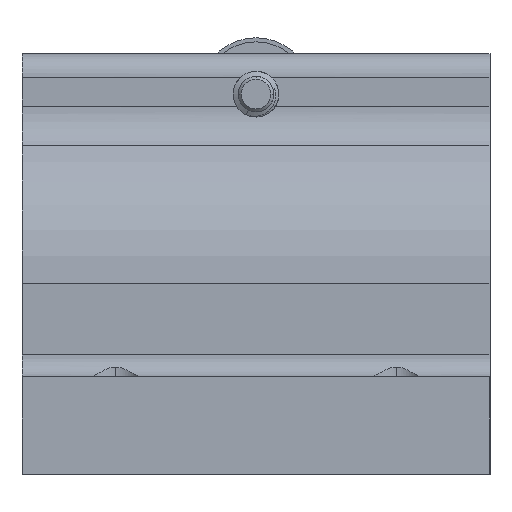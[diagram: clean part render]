
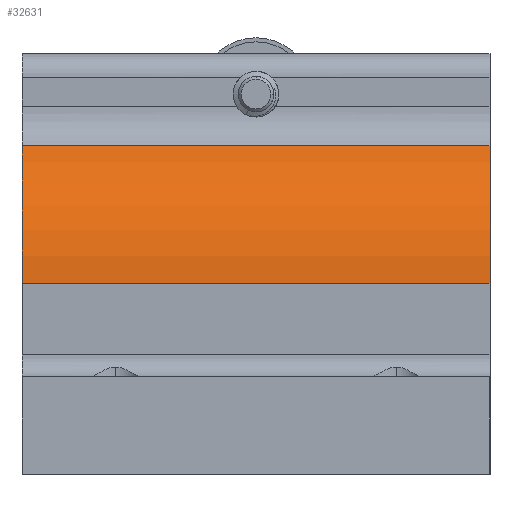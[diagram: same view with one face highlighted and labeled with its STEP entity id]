
A CAD part, left-side view. The second image highlights one B-rep face of the part: STEP entity #32631.
In plain terms, the highlighted cylindrical face has radius 22.098 mm (diameter 44.196 mm), a partial arc.
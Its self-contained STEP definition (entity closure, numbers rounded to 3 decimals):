
#623 = VERTEX_POINT ( 'NONE', #9445 ) ;
#744 = DIRECTION ( 'NONE',  ( 0., 0., -1. ) ) ;
#1178 = FACE_OUTER_BOUND ( 'NONE', #37655, .T. ) ;
#1767 = DIRECTION ( 'NONE',  ( 0., 1., 0. ) ) ;
#1979 = LINE ( 'NONE', #6082, #9090 ) ;
#4372 = CARTESIAN_POINT ( 'NONE',  ( -22.098, -31.75, 0. ) ) ;
#4605 = DIRECTION ( 'NONE',  ( 0., 1., 0. ) ) ;
#6082 = CARTESIAN_POINT ( 'NONE',  ( -22.098, 31.75, 0. ) ) ;
#8510 = EDGE_CURVE ( 'NONE', #623, #14179, #14367, .T. ) ;
#9090 = VECTOR ( 'NONE', #33846, 1000. ) ;
#9445 = CARTESIAN_POINT ( 'NONE',  ( -22.098, 31.75, 0. ) ) ;
#10271 = EDGE_CURVE ( 'NONE', #14179, #20960, #41307, .T. ) ;
#11333 = EDGE_CURVE ( 'NONE', #20960, #40420, #35502, .T. ) ;
#12252 = DIRECTION ( 'NONE',  ( -1., 0., 0. ) ) ;
#12734 = ORIENTED_EDGE ( 'NONE', *, *, #18337, .T. ) ;
#14179 = VERTEX_POINT ( 'NONE', #25662 ) ;
#14367 = CIRCLE ( 'NONE', #37609, 22.098 ) ;
#14625 = ORIENTED_EDGE ( 'NONE', *, *, #8510, .F. ) ;
#15116 = VECTOR ( 'NONE', #31507, 1000. ) ;
#15876 = AXIS2_PLACEMENT_3D ( 'NONE', #41930, #18454, #21200 ) ;
#18337 = EDGE_CURVE ( 'NONE', #623, #40420, #1979, .T. ) ;
#18454 = DIRECTION ( 'NONE',  ( 0., -1., 0. ) ) ;
#20960 = VERTEX_POINT ( 'NONE', #29696 ) ;
#21200 = DIRECTION ( 'NONE',  ( -0.536, 0., 0.844 ) ) ;
#25662 = CARTESIAN_POINT ( 'NONE',  ( -11.838, 31.75, 18.66 ) ) ;
#27644 = CARTESIAN_POINT ( 'NONE',  ( -11.838, 31.75, 18.66 ) ) ;
#28731 = CARTESIAN_POINT ( 'NONE',  ( 0., -38.1, 0. ) ) ;
#29535 = CARTESIAN_POINT ( 'NONE',  ( 0., 31.75, 0. ) ) ;
#29696 = CARTESIAN_POINT ( 'NONE',  ( -11.838, -31.75, 18.66 ) ) ;
#31507 = DIRECTION ( 'NONE',  ( 0., -1., 0. ) ) ;
#32631 = ADVANCED_FACE ( 'NONE', ( #1178 ), #35784, .T. ) ;
#33846 = DIRECTION ( 'NONE',  ( 0., -1., 0. ) ) ;
#34911 = ORIENTED_EDGE ( 'NONE', *, *, #11333, .F. ) ;
#35502 = CIRCLE ( 'NONE', #15876, 22.098 ) ;
#35784 = CYLINDRICAL_SURFACE ( 'NONE', #43682, 22.098 ) ;
#37609 = AXIS2_PLACEMENT_3D ( 'NONE', #29535, #1767, #12252 ) ;
#37655 = EDGE_LOOP ( 'NONE', ( #12734, #34911, #40236, #14625 ) ) ;
#40236 = ORIENTED_EDGE ( 'NONE', *, *, #10271, .F. ) ;
#40420 = VERTEX_POINT ( 'NONE', #4372 ) ;
#41307 = LINE ( 'NONE', #27644, #15116 ) ;
#41930 = CARTESIAN_POINT ( 'NONE',  ( 0., -31.75, 0. ) ) ;
#43682 = AXIS2_PLACEMENT_3D ( 'NONE', #28731, #4605, #744 ) ;
